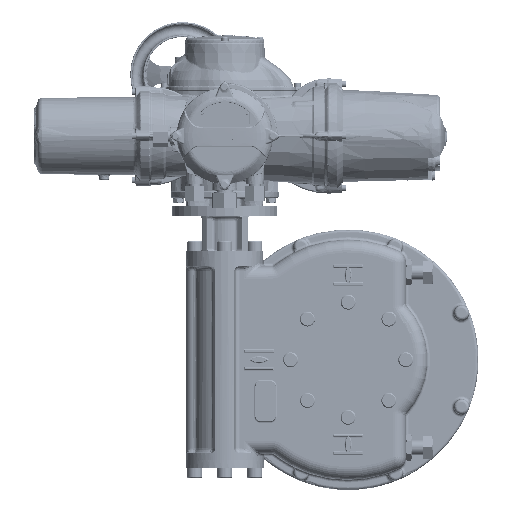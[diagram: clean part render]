
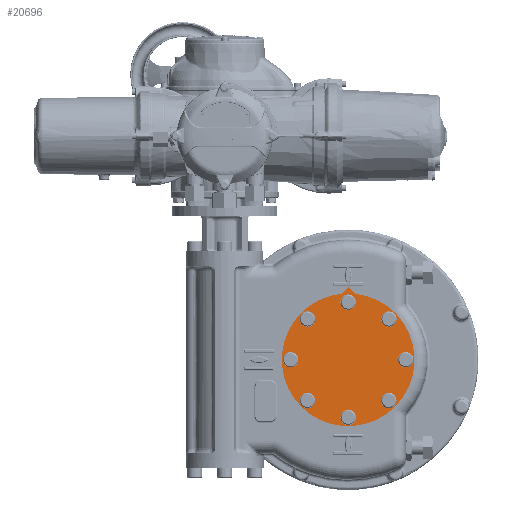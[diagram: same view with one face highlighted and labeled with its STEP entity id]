
A CAD part, front view. The second image highlights one B-rep face of the part: STEP entity #20696.
In plain terms, the highlighted planar face has unit normal (0, -1, 0).
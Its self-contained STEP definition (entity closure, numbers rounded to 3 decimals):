
#20696 = ADVANCED_FACE( '', ( #43119, #43120, #43121, #43122, #43123, #43124, #43125, #43126, #43127 ), #43128, .F. );
#43119 = FACE_BOUND( '', #322664, .T. );
#43120 = FACE_BOUND( '', #322665, .T. );
#43121 = FACE_BOUND( '', #322666, .T. );
#43122 = FACE_BOUND( '', #322667, .T. );
#43123 = FACE_BOUND( '', #322668, .T. );
#43124 = FACE_BOUND( '', #322669, .T. );
#43125 = FACE_BOUND( '', #322670, .T. );
#43126 = FACE_BOUND( '', #322671, .T. );
#43127 = FACE_OUTER_BOUND( '', #322672, .T. );
#43128 = PLANE( '', #322673 );
#322664 = EDGE_LOOP( '', ( #407922 ) );
#322665 = EDGE_LOOP( '', ( #407923 ) );
#322666 = EDGE_LOOP( '', ( #407924 ) );
#322667 = EDGE_LOOP( '', ( #407925 ) );
#322668 = EDGE_LOOP( '', ( #407926 ) );
#322669 = EDGE_LOOP( '', ( #407927 ) );
#322670 = EDGE_LOOP( '', ( #407928 ) );
#322671 = EDGE_LOOP( '', ( #407929 ) );
#322672 = EDGE_LOOP( '', ( #407930, #407931, #407932 ) );
#322673 = AXIS2_PLACEMENT_3D( '', #407933, #407934, #407935 );
#407922 = ORIENTED_EDGE( '', *, *, #422742, .F. );
#407923 = ORIENTED_EDGE( '', *, *, #430898, .F. );
#407924 = ORIENTED_EDGE( '', *, *, #439269, .F. );
#407925 = ORIENTED_EDGE( '', *, *, #434852, .F. );
#407926 = ORIENTED_EDGE( '', *, *, #429127, .F. );
#407927 = ORIENTED_EDGE( '', *, *, #437976, .F. );
#407928 = ORIENTED_EDGE( '', *, *, #421680, .F. );
#407929 = ORIENTED_EDGE( '', *, *, #426791, .F. );
#407930 = ORIENTED_EDGE( '', *, *, #416705, .F. );
#407931 = ORIENTED_EDGE( '', *, *, #435766, .F. );
#407932 = ORIENTED_EDGE( '', *, *, #421119, .F. );
#407933 = CARTESIAN_POINT( '', ( 246.38, -55.25, -446.7 ) );
#407934 = DIRECTION( '', ( 0., 1., 0. ) );
#407935 = DIRECTION( '', ( 0., 0., -1. ) );
#416705 = EDGE_CURVE( '', #442216, #442218, #442219, .T. );
#421119 = EDGE_CURVE( '', #442218, #449816, #449817, .T. );
#421680 = EDGE_CURVE( '', #450743, #450743, #450744, .T. );
#422742 = EDGE_CURVE( '', #452442, #452442, #452443, .T. );
#426791 = EDGE_CURVE( '', #458713, #458713, #458714, .T. );
#429127 = EDGE_CURVE( '', #462093, #462093, #462094, .T. );
#430898 = EDGE_CURVE( '', #464549, #464549, #464550, .T. );
#434852 = EDGE_CURVE( '', #469649, #469649, #469650, .T. );
#435766 = EDGE_CURVE( '', #449816, #442216, #470719, .T. );
#437976 = EDGE_CURVE( '', #473243, #473243, #473244, .T. );
#439269 = EDGE_CURVE( '', #474632, #474632, #474633, .T. );
#442216 = VERTEX_POINT( '', #483232 );
#442218 = VERTEX_POINT( '', #483235 );
#442219 = CIRCLE( '', #483236, 132.5 );
#449816 = VERTEX_POINT( '', #518675 );
#449817 = LINE( '', #518676, #518677 );
#450743 = VERTEX_POINT( '', #525361 );
#450744 = CIRCLE( '', #525362, 15.35 );
#452442 = VERTEX_POINT( '', #533700 );
#452443 = CIRCLE( '', #533701, 15.35 );
#458713 = VERTEX_POINT( '', #566654 );
#458714 = CIRCLE( '', #566655, 15.35 );
#462093 = VERTEX_POINT( '', #586375 );
#462094 = CIRCLE( '', #586376, 15.35 );
#464549 = VERTEX_POINT( '', #599617 );
#464550 = CIRCLE( '', #599618, 15.35 );
#469649 = VERTEX_POINT( '', #628354 );
#469650 = CIRCLE( '', #628355, 15.35 );
#470719 = LINE( '', #635295, #635296 );
#473243 = VERTEX_POINT( '', #648183 );
#473244 = CIRCLE( '', #648184, 15.35 );
#474632 = VERTEX_POINT( '', #655088 );
#474633 = CIRCLE( '', #655089, 15.35 );
#483232 = CARTESIAN_POINT( '', ( 259.535, -55.25, -314.855 ) );
#483235 = CARTESIAN_POINT( '', ( 233.225, -55.25, -314.855 ) );
#483236 = AXIS2_PLACEMENT_3D( '', #660746, #660747, #660748 );
#518675 = CARTESIAN_POINT( '', ( 246.38, -55.25, -301.7 ) );
#518676 = CARTESIAN_POINT( '', ( 233.225, -55.25, -314.855 ) );
#518677 = VECTOR( '', #665732, 1000. );
#525361 = CARTESIAN_POINT( '', ( 165.063, -55.25, -512.667 ) );
#525362 = AXIS2_PLACEMENT_3D( '', #666309, #666310, #666311 );
#533700 = CARTESIAN_POINT( '', ( 180.413, -55.25, -365.383 ) );
#533701 = AXIS2_PLACEMENT_3D( '', #667419, #667420, #667421 );
#566654 = CARTESIAN_POINT( '', ( 142.234, -55.25, -435.846 ) );
#566655 = AXIS2_PLACEMENT_3D( '', #671671, #671672, #671673 );
#586375 = CARTESIAN_POINT( '', ( 327.697, -55.25, -380.733 ) );
#586376 = AXIS2_PLACEMENT_3D( '', #673878, #673879, #673880 );
#599617 = CARTESIAN_POINT( '', ( 235.526, -55.25, -550.846 ) );
#599618 = AXIS2_PLACEMENT_3D( '', #675667, #675668, #675669 );
#628354 = CARTESIAN_POINT( '', ( 257.234, -55.25, -342.554 ) );
#628355 = AXIS2_PLACEMENT_3D( '', #679197, #679198, #679199 );
#635295 = CARTESIAN_POINT( '', ( 246.38, -55.25, -301.7 ) );
#635296 = VECTOR( '', #679919, 1000. );
#648183 = CARTESIAN_POINT( '', ( 312.347, -55.25, -528.017 ) );
#648184 = AXIS2_PLACEMENT_3D( '', #681757, #681758, #681759 );
#655088 = CARTESIAN_POINT( '', ( 350.526, -55.25, -457.554 ) );
#655089 = AXIS2_PLACEMENT_3D( '', #682604, #682605, #682606 );
#660746 = CARTESIAN_POINT( '', ( 246.38, -55.25, -446.7 ) );
#660747 = DIRECTION( '', ( 0., 1., 0. ) );
#660748 = DIRECTION( '', ( 0., 0., 1. ) );
#665732 = DIRECTION( '', ( 0.707, 0., 0.707 ) );
#666309 = CARTESIAN_POINT( '', ( 165.063, -55.25, -528.017 ) );
#666310 = DIRECTION( '', ( 0., -1., 0. ) );
#666311 = DIRECTION( '', ( 0., 0., 1. ) );
#667419 = CARTESIAN_POINT( '', ( 165.063, -55.25, -365.383 ) );
#667420 = DIRECTION( '', ( 0., -1., 0. ) );
#667421 = DIRECTION( '', ( 1., 0., 0. ) );
#671671 = CARTESIAN_POINT( '', ( 131.38, -55.25, -446.7 ) );
#671672 = DIRECTION( '', ( 0., -1., 0. ) );
#671673 = DIRECTION( '', ( 0.707, 0., 0.707 ) );
#673878 = CARTESIAN_POINT( '', ( 327.697, -55.25, -365.383 ) );
#673879 = DIRECTION( '', ( 0., -1., 0. ) );
#673880 = DIRECTION( '', ( 0., 0., -1. ) );
#675667 = CARTESIAN_POINT( '', ( 246.38, -55.25, -561.7 ) );
#675668 = DIRECTION( '', ( 0., -1., 0. ) );
#675669 = DIRECTION( '', ( -0.707, 0., 0.707 ) );
#679197 = CARTESIAN_POINT( '', ( 246.38, -55.25, -331.7 ) );
#679198 = DIRECTION( '', ( 0., -1., 0. ) );
#679199 = DIRECTION( '', ( 0.707, 0., -0.707 ) );
#679919 = DIRECTION( '', ( 0.707, 0., -0.707 ) );
#681757 = CARTESIAN_POINT( '', ( 327.697, -55.25, -528.017 ) );
#681758 = DIRECTION( '', ( 0., -1., 0. ) );
#681759 = DIRECTION( '', ( -1., 0., 0. ) );
#682604 = CARTESIAN_POINT( '', ( 361.38, -55.25, -446.7 ) );
#682605 = DIRECTION( '', ( 0., -1., 0. ) );
#682606 = DIRECTION( '', ( -0.707, 0., -0.707 ) );
